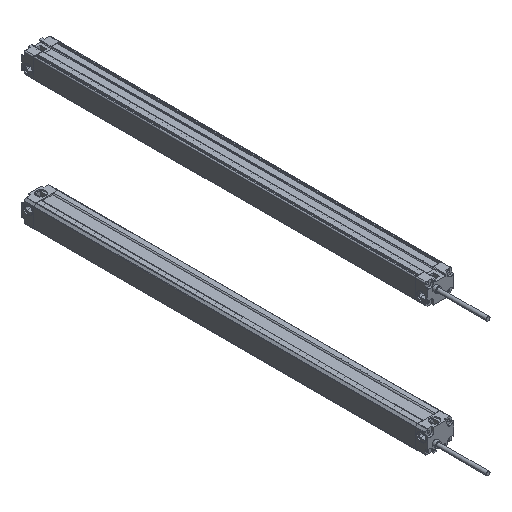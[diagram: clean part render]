
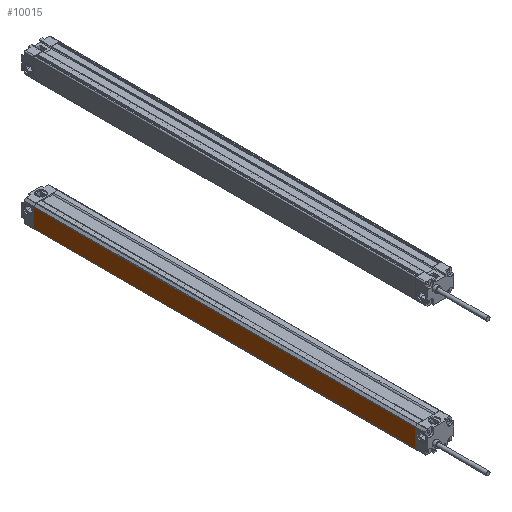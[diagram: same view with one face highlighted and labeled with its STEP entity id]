
A CAD part, isometric view. The second image highlights one B-rep face of the part: STEP entity #10015.
In plain terms, the highlighted planar face has unit normal (-1, 0, 0).
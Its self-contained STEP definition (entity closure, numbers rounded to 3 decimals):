
#99 = DIRECTION ( 'NONE',  ( -1., 0., 0. ) ) ;
#885 = DIRECTION ( 'NONE',  ( 0., 0., 1. ) ) ;
#944 = CARTESIAN_POINT ( 'NONE',  ( -12.5, -360., 8.293 ) ) ;
#1035 = VERTEX_POINT ( 'NONE', #4815 ) ;
#1282 = CARTESIAN_POINT ( 'NONE',  ( -12.5, 0., -9.2 ) ) ;
#1325 = EDGE_CURVE ( 'NONE', #1608, #6358, #3205, .T. ) ;
#1428 = CARTESIAN_POINT ( 'NONE',  ( -12.5, -360., -9.2 ) ) ;
#1442 = ORIENTED_EDGE ( 'NONE', *, *, #7319, .T. ) ;
#1573 = VECTOR ( 'NONE', #4697, 1000. ) ;
#1574 = AXIS2_PLACEMENT_3D ( 'NONE', #4924, #99, #885 ) ;
#1608 = VERTEX_POINT ( 'NONE', #944 ) ;
#2036 = CARTESIAN_POINT ( 'NONE',  ( -12.5, 0., -9.2 ) ) ;
#2918 = VECTOR ( 'NONE', #10049, 1000. ) ;
#2921 = CARTESIAN_POINT ( 'NONE',  ( -12.5, -360., 8.293 ) ) ;
#3140 = DIRECTION ( 'NONE',  ( 0., 0., 1. ) ) ;
#3205 = LINE ( 'NONE', #2921, #6015 ) ;
#3819 = LINE ( 'NONE', #1428, #10415 ) ;
#4190 = CARTESIAN_POINT ( 'NONE',  ( -12.5, -360., -9.2 ) ) ;
#4291 = VERTEX_POINT ( 'NONE', #2036 ) ;
#4697 = DIRECTION ( 'NONE',  ( 0., 0., 1. ) ) ;
#4815 = CARTESIAN_POINT ( 'NONE',  ( -12.5, -360., -9.2 ) ) ;
#4924 = CARTESIAN_POINT ( 'NONE',  ( -12.5, -360., -9.2 ) ) ;
#4939 = EDGE_LOOP ( 'NONE', ( #9235, #7342, #1442, #7339 ) ) ;
#6015 = VECTOR ( 'NONE', #9686, 1000. ) ;
#6294 = EDGE_CURVE ( 'NONE', #1035, #4291, #9278, .T. ) ;
#6358 = VERTEX_POINT ( 'NONE', #6438 ) ;
#6438 = CARTESIAN_POINT ( 'NONE',  ( -12.5, 0., 8.293 ) ) ;
#6991 = EDGE_CURVE ( 'NONE', #4291, #6358, #8719, .T. ) ;
#7319 = EDGE_CURVE ( 'NONE', #1035, #1608, #3819, .T. ) ;
#7339 = ORIENTED_EDGE ( 'NONE', *, *, #1325, .T. ) ;
#7342 = ORIENTED_EDGE ( 'NONE', *, *, #6294, .F. ) ;
#8719 = LINE ( 'NONE', #1282, #1573 ) ;
#9235 = ORIENTED_EDGE ( 'NONE', *, *, #6991, .F. ) ;
#9278 = LINE ( 'NONE', #4190, #2918 ) ;
#9686 = DIRECTION ( 'NONE',  ( 0., 1., 0. ) ) ;
#10015 = ADVANCED_FACE ( 'NONE', ( #10760 ), #10071, .T. ) ;
#10049 = DIRECTION ( 'NONE',  ( 0., 1., 0. ) ) ;
#10071 = PLANE ( 'NONE',  #1574 ) ;
#10415 = VECTOR ( 'NONE', #3140, 1000. ) ;
#10760 = FACE_OUTER_BOUND ( 'NONE', #4939, .T. ) ;
